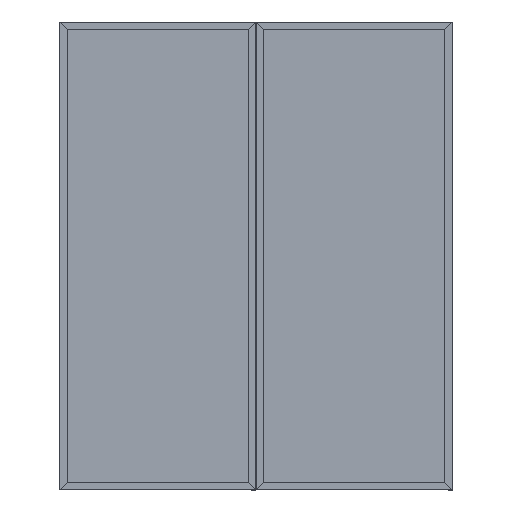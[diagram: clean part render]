
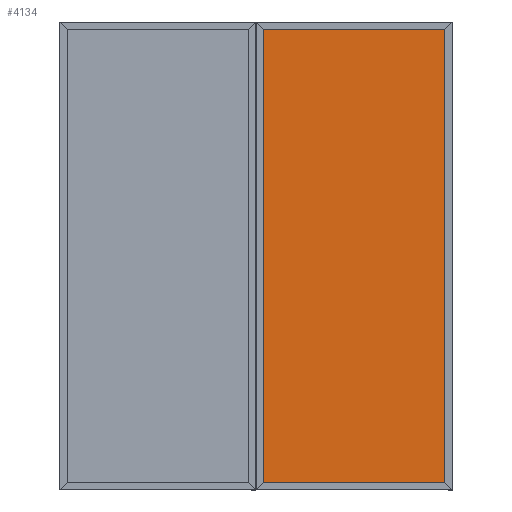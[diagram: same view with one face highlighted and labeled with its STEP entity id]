
A CAD part, top view. The second image highlights one B-rep face of the part: STEP entity #4134.
In plain terms, the highlighted planar face has unit normal (0, 0, 1).
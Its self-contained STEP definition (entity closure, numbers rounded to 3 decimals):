
#771 = DIRECTION ( 'NONE',  ( 0., 0., -1. ) ) ;
#1656 = LINE ( 'NONE', #9758, #13950 ) ;
#2415 = DIRECTION ( 'NONE',  ( -1., 0., 0. ) ) ;
#3416 = CARTESIAN_POINT ( 'NONE',  ( -465.07, -1162.2, -13.25 ) ) ;
#3560 = DIRECTION ( 'NONE',  ( 0., 1., 0. ) ) ;
#4134 = ADVANCED_FACE ( 'NONE', ( #8597 ), #11205, .F. ) ;
#4625 = CARTESIAN_POINT ( 'NONE',  ( 465.07, 1162.2, -13.25 ) ) ;
#4903 = EDGE_CURVE ( 'NONE', #11909, #23168, #5755, .T. ) ;
#4977 = EDGE_LOOP ( 'NONE', ( #26029, #13154, #8313, #9154 ) ) ;
#5755 = LINE ( 'NONE', #23936, #7805 ) ;
#6377 = CARTESIAN_POINT ( 'NONE',  ( 0., -1162.2, -13.25 ) ) ;
#6805 = CARTESIAN_POINT ( 'NONE',  ( 0., 0., -13.25 ) ) ;
#6839 = VERTEX_POINT ( 'NONE', #4625 ) ;
#7805 = VECTOR ( 'NONE', #3560, 1000. ) ;
#8313 = ORIENTED_EDGE ( 'NONE', *, *, #21567, .T. ) ;
#8597 = FACE_OUTER_BOUND ( 'NONE', #4977, .T. ) ;
#9154 = ORIENTED_EDGE ( 'NONE', *, *, #19702, .T. ) ;
#9758 = CARTESIAN_POINT ( 'NONE',  ( 0., 1162.2, -13.25 ) ) ;
#10088 = LINE ( 'NONE', #18438, #11753 ) ;
#11205 = PLANE ( 'NONE',  #12909 ) ;
#11753 = VECTOR ( 'NONE', #26809, 1000. ) ;
#11909 = VERTEX_POINT ( 'NONE', #3416 ) ;
#12909 = AXIS2_PLACEMENT_3D ( 'NONE', #6805, #771, #2415 ) ;
#13154 = ORIENTED_EDGE ( 'NONE', *, *, #21648, .F. ) ;
#13260 = VERTEX_POINT ( 'NONE', #20470 ) ;
#13950 = VECTOR ( 'NONE', #20312, 1000. ) ;
#17804 = VECTOR ( 'NONE', #23130, 1000. ) ;
#18438 = CARTESIAN_POINT ( 'NONE',  ( 465.07, 0., -13.25 ) ) ;
#18725 = LINE ( 'NONE', #6377, #17804 ) ;
#19702 = EDGE_CURVE ( 'NONE', #6839, #23168, #1656, .T. ) ;
#20312 = DIRECTION ( 'NONE',  ( -1., 0., 0. ) ) ;
#20470 = CARTESIAN_POINT ( 'NONE',  ( 465.07, -1162.2, -13.25 ) ) ;
#21567 = EDGE_CURVE ( 'NONE', #13260, #6839, #10088, .T. ) ;
#21648 = EDGE_CURVE ( 'NONE', #13260, #11909, #18725, .T. ) ;
#22762 = CARTESIAN_POINT ( 'NONE',  ( -465.07, 1162.2, -13.25 ) ) ;
#23130 = DIRECTION ( 'NONE',  ( -1., 0., 0. ) ) ;
#23168 = VERTEX_POINT ( 'NONE', #22762 ) ;
#23936 = CARTESIAN_POINT ( 'NONE',  ( -465.07, 0., -13.25 ) ) ;
#26029 = ORIENTED_EDGE ( 'NONE', *, *, #4903, .F. ) ;
#26809 = DIRECTION ( 'NONE',  ( 0., 1., 0. ) ) ;
